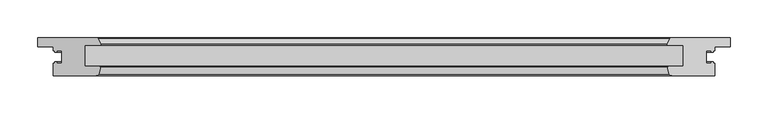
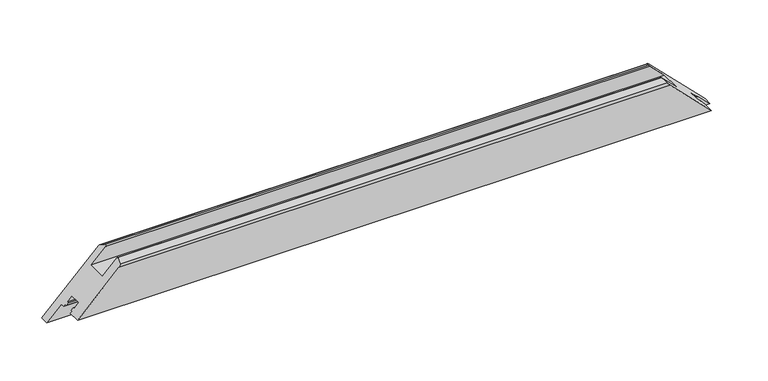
"""IFC4 building model written with IfcOpenShell, lengths in millimetres: proxy geometry, Weiku - Montante - Folha 02.2.01.017 : Weiku - Montante - Folha 02.2.01.017."""

import ifcopenshell
import ifcopenshell.guid

model = None  # the IFC model being written
_history = None  # IfcOwnerHistory: only IFC2X3 demands one
_inside = {}  # id of a spatial element -> (the spatial element, [elements in it])
_under = {}  # id of a project, library or spatial element -> (it, [spatial elements below it])
_declared = {}  # id of a project -> (the project, [libraries it declares])
_typed = {}  # id of a type object -> (the type object, [elements of that type])
_made_of = {}  # id of a material, layer set ... -> (it, [elements and type objects made of it])


def new_model(schema):
    """Start an empty IFC model of exactly this schema.

    Asked for "IFC4X3", IfcOpenShell would pick the latest addendum, in which some entities
    have other attributes; the version numbers below select the first issue.
    IFC2X3 requires an IfcOwnerHistory on every rooted entity: one is made here for all.
    """
    global model, _history
    if schema == "IFC4X3":
        model = ifcopenshell.file(schema_version=(4, 3, 0, 0))
    else:
        model = ifcopenshell.file(schema=schema)
    _inside.clear()
    _under.clear()
    _declared.clear()
    _typed.clear()
    _made_of.clear()
    _history = None
    if model.schema == "IFC2X3":
        org = make("IfcOrganization", Name="unknown")
        user = make(
            "IfcPersonAndOrganization",
            ThePerson=make("IfcPerson", FamilyName="unknown"),
            TheOrganization=org,
        )
        app = make(
            "IfcApplication",
            ApplicationDeveloper=org,
            Version="unknown",
            ApplicationFullName="unknown",
            ApplicationIdentifier="unknown",
        )
        _history = make(
            "IfcOwnerHistory",
            OwningUser=user,
            OwningApplication=app,
            ChangeAction="ADDED",
            CreationDate=0,
        )
    return model


def make(cls, **values):
    """One entity of the class cls with the attributes given. An attribute that is None is left unset."""
    return model.create_entity(
        cls, **{name: value for name, value in values.items() if value is not None}
    )


def rooted(cls, **values):
    """An entity with a GlobalId (a new one), such as an element, a storey or a relation."""
    return make(cls, GlobalId=ifcopenshell.guid.new(), OwnerHistory=_history, **values)


def si_unit(unit_type, name, prefix=None):
    """IfcSIUnit, for example si_unit("LENGTHUNIT", "METRE", prefix="MILLI")."""
    return make("IfcSIUnit", UnitType=unit_type, Prefix=prefix, Name=name)


def assignment(units):
    """IfcUnitAssignment: the units of a project."""
    return None if units is None else make("IfcUnitAssignment", Units=units)


def point(xyz):
    """IfcCartesianPoint."""
    return None if xyz is None else make("IfcCartesianPoint", Coordinates=xyz)


def direction(xyz):
    """IfcDirection."""
    return None if xyz is None else make("IfcDirection", DirectionRatios=xyz)


def frame(location, z_axis=None, x_axis=None):
    """IfcAxis2Placement3D, a coordinate frame: its origin and axes. An axis left out is left unset."""
    return make(
        "IfcAxis2Placement3D",
        Location=point(location),
        Axis=direction(z_axis),
        RefDirection=direction(x_axis),
    )


def origin():
    """The frame at (0, 0, 0) with its axes left unset."""
    return frame((0.0, 0.0, 0.0))


def place(relative_to, where):
    """IfcLocalPlacement: puts the frame where relative to a parent placement (None: the world)."""
    return make(
        "IfcLocalPlacement", PlacementRelTo=relative_to, RelativePlacement=where
    )


def context(
    kind, dimensions, precision=None, world=None, true_north=None, identifier=None
):
    """IfcGeometricRepresentationContext, for example the 3D "Model" context."""
    return make(
        "IfcGeometricRepresentationContext",
        ContextIdentifier=identifier,
        ContextType=kind,
        CoordinateSpaceDimension=dimensions,
        Precision=precision,
        WorldCoordinateSystem=world,
        TrueNorth=true_north,
    )


def project(units=None, contexts=None):
    """IfcProject with its units and contexts."""
    return rooted(
        "IfcProject",
        Name="project",
        RepresentationContexts=contexts,
        UnitsInContext=assignment(units),
    )


def spatial(cls, under=None, at=None, **own):
    """A site, building, storey or space (cls), placed at a placement, below another one or the project."""
    s = rooted(cls, ObjectPlacement=at, **own)
    if under is not None:
        _under.setdefault(under.id(), (under, []))[1].append(s)
    return s


def ellipse_curve(where, semi_axis1, semi_axis2):
    """IfcEllipse in the frame where."""
    return make(
        "IfcEllipse", Position=where, SemiAxis1=semi_axis1, SemiAxis2=semi_axis2
    )


def shape(context_of_items, identifier, shape_type, items):
    """IfcShapeRepresentation: the items that make up one representation, for example the "Body"."""
    return make(
        "IfcShapeRepresentation",
        ContextOfItems=context_of_items,
        RepresentationIdentifier=identifier,
        RepresentationType=shape_type,
        Items=items,
    )


def source(mapping_origin, context_of_items, identifier, shape_type, items):
    """IfcRepresentationMap: a shape defined once, which mapped items show again and again."""
    return make(
        "IfcRepresentationMap",
        MappingOrigin=mapping_origin,
        MappedRepresentation=shape(context_of_items, identifier, shape_type, items),
    )


def transform(
    local_origin,
    x_axis=None,
    y_axis=None,
    z_axis=None,
    scale=None,
    scale2=None,
    scale3=None,
    uniform=True,
):
    """IfcCartesianTransformationOperator3D, or its non-uniform kind. x_axis, y_axis, z_axis: its Axis1, 2, 3."""
    if uniform:
        return make(
            "IfcCartesianTransformationOperator3D",
            Axis1=direction(x_axis),
            Axis2=direction(y_axis),
            LocalOrigin=point(local_origin),
            Scale=scale,
            Axis3=direction(z_axis),
        )
    return make(
        "IfcCartesianTransformationOperator3DnonUniform",
        Axis1=direction(x_axis),
        Axis2=direction(y_axis),
        LocalOrigin=point(local_origin),
        Scale=scale,
        Axis3=direction(z_axis),
        Scale2=scale2,
        Scale3=scale3,
    )


def mapped(mapping_source, mapping_target):
    """IfcMappedItem: shows the shape of a source again, moved by a transform."""
    return make(
        "IfcMappedItem", MappingSource=mapping_source, MappingTarget=mapping_target
    )


def made_of(thing, what):
    """Note that an element or type object is made of a material, layer set ...; save() writes the relation."""
    if what is not None:
        _made_of.setdefault(what.id(), (what, []))[1].append(thing)
    return thing


def element(
    cls,
    number,
    at=None,
    inside=None,
    cuts=None,
    type_object=None,
    material=None,
    context=None,
    identifier="Body",
    shape_type=None,
    held_by="IfcProductDefinitionShape",
    body=None,
    shapes=None,
    **own,
):
    """One element of the class cls, such as IfcWall. Its Tag is "e" and its number.

    at: its placement. inside: the storey or other place that contains it. cuts: it is an
    opening in that element (IfcRelVoidsElement). A single representation is given by context,
    identifier, shape_type and body (its items); several are given by shapes. held_by: the class
    of the entity that holds the representations. save() writes the other relations.
    """
    e = rooted(cls, Tag="e%d" % number, ObjectPlacement=at, **own)
    if body is not None:
        shapes = [shape(context, identifier, shape_type, body)]
    if shapes is not None:
        e.Representation = make(held_by, Representations=shapes)
    if inside is not None:
        _inside.setdefault(inside.id(), (inside, []))[1].append(e)
    if cuts is not None:
        rooted(
            "IfcRelVoidsElement", RelatingBuildingElement=cuts, RelatedOpeningElement=e
        )
    if type_object is not None:
        _typed.setdefault(type_object.id(), (type_object, []))[1].append(e)
    return made_of(e, material)


def aggregate(whole, parts):
    """IfcRelAggregates: a whole, such as a stair, and the parts it consists of."""
    return rooted("IfcRelAggregates", RelatingObject=whole, RelatedObjects=parts)


def save(model, path):
    """Write the relations noted so far, then the file.

    IfcRelAggregates (storeys below a building ...), IfcRelContainedInSpatialStructure (elements
    in a storey), IfcRelDefinesByType, IfcRelAssociatesMaterial and IfcRelDeclares: one each for
    every whole, place, type object, material and project.
    """
    for whole, parts in _under.values():
        aggregate(whole, parts)
    for where, things in _inside.values():
        rooted(
            "IfcRelContainedInSpatialStructure",
            RelatedElements=things,
            RelatingStructure=where,
        )
    for kind, things in _typed.values():
        rooted("IfcRelDefinesByType", RelatedObjects=things, RelatingType=kind)
    for what, things in _made_of.values():
        rooted("IfcRelAssociatesMaterial", RelatedObjects=things, RelatingMaterial=what)
    for by, libraries in _declared.values():
        rooted("IfcRelDeclares", RelatingContext=by, RelatedDefinitions=libraries)
    model.write(path)


def plane_surface(at):
    """IfcPlane: the flat surface through the origin of the frame at, square to its z axis."""
    return make("IfcPlane", Position=at)


def cylinder_surface(at, radius):
    """IfcCylindricalSurface: all points at the distance radius from the z axis of the frame at."""
    return make("IfcCylindricalSurface", Position=at, Radius=radius)


def advanced_brep(points, edges, surfaces, faces):
    """IfcAdvancedBrep: a solid bounded by faces that lie on surfaces and meet in shared edges.

    An edge is (start, end): straight between two places in points (the first is 0);
    or (start, end, curve); or (start, end, curve, False) where it runs against its curve.
    A face is (place in surfaces, loops), or (place, loops, False) where it looks against
    its surface's normal. A loop lists edges by number (the first is 1), with a minus sign
    where the edge is run from its end to its start. The first loop is the outer one.
    """
    corners = [point(p) for p in points]
    vertices = [make("IfcVertexPoint", VertexGeometry=c) for c in corners]
    made = []
    for start, end, *more in edges:
        made.append(
            make(
                "IfcEdgeCurve",
                EdgeStart=vertices[start],
                EdgeEnd=vertices[end],
                EdgeGeometry=more[0] if more else make("IfcPolyline", Points=[corners[start], corners[end]]),
                SameSense=more[1] if len(more) > 1 else True,
            )
        )
    hull = []
    for where, loops, *sense in faces:
        bounds = []
        for j, loop in enumerate(loops):
            ring = [make("IfcOrientedEdge", EdgeElement=made[abs(k) - 1], Orientation=k > 0) for k in loop]
            bounds.append(
                make(
                    "IfcFaceOuterBound" if j == 0 else "IfcFaceBound",
                    Bound=make("IfcEdgeLoop", EdgeList=ring),
                    Orientation=True,
                )
            )
        hull.append(make("IfcAdvancedFace", Bounds=bounds, FaceSurface=surfaces[where], SameSense=sense[0] if sense else True))
    return make("IfcAdvancedBrep", Outer=make("IfcClosedShell", CfsFaces=hull))


def generic_models_682dcc86(model_context):
    return source(origin(), model_context, "Body", "AdvancedBrep", [
        advanced_brep(
        [(-436.0, -50.0, 20.0), (436.0, -50.0, 20.0), (378.9997332, -50.0, 77.0002668), (-378.9997332, -50.0, 77.0002668), (-456.0, 0.0, 0.0), (-377.9872264, 0.0, 78.0127736), (377.9872264, 0.0, 78.0127736), (456.0, 0.0, 0.0), (-376.1019557, -47.7764571, 79.8980443), (-373.5170371, -38.1294095, 82.4829629), (-374.0, -37.5, 82.0), (-394.5, -37.5, 61.5), (-394.5, -9.5, 61.5), (-374.7134285, -9.5, 81.2865715), (-373.5512796, -7.617411, 82.4487204), (-377.0932657, -0.5518546, 78.9067343), (-456.0, -11.5, 0.0), (-436.0, -11.5, 20.0), (-436.0, -16.9, 20.0), (-433.8, -16.9, 22.2), (-433.8, -18.9, 22.2), (-431.0, -18.9, 25.0), (-431.0, -16.9, 25.0), (-424.5, -16.9, 31.5), (-424.5, -33.1, 31.5), (-431.0, -33.1, 25.0), (-431.0, -31.1, 25.0), (-433.8, -31.1, 22.2), (-433.8, -33.1, 22.2), (-436.0, -33.1, 20.0), (436.0, -33.1, 20.0), (433.8, -33.1, 22.2), (433.8, -31.1, 22.2), (431.0, -31.1, 25.0), (431.0, -33.1, 25.0), (424.5, -33.1, 31.5), (424.5, -16.9, 31.5), (431.0, -16.9, 25.0), (431.0, -18.9, 25.0), (433.8, -18.9, 22.2), (433.8, -16.9, 22.2), (436.0, -16.9, 20.0), (436.0, -11.5, 20.0), (456.0, -11.5, 0.0), (377.0932657, -0.5518546, 78.9067343), (373.5512796, -7.617411, 82.4487204), (374.7134285, -9.5, 81.2865715), (394.5, -9.5, 61.5), (394.5, -37.5, 61.5), (374.0, -37.5, 82.0), (373.5170371, -38.1294095, 82.4829629), (376.1019557, -47.7764571, 79.8980443)],
        [
            (0, 1),
            (1, 2),
            (2, 3),
            (3, 0),
            (4, 5),
            (5, 6),
            (6, 7),
            (7, 4),
            (3, 8, ellipse_curve(frame((-378.9997332, -47.0, 77.0002668), z_axis=(-0.7071067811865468, 0.0, 0.7071067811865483), x_axis=(-0.7071067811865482, 0.0, -0.7071067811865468)), 4.2426407, 3.0)),
            (8, 9),
            (9, 10, ellipse_curve(frame((-374.0, -38.0, 82.0), z_axis=(-0.7071067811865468, 0.0, 0.7071067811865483), x_axis=(-0.7071067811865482, 0.0, -0.7071067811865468)), 0.7071068, 0.5)),
            (10, 11),
            (11, 12),
            (12, 13),
            (13, 14, ellipse_curve(frame((-374.7134285, -8.2, 81.2865715), z_axis=(-0.7071067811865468, 0.0, 0.7071067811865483), x_axis=(-0.7071067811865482, 0.0, -0.7071067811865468)), 1.8384776, 1.3)),
            (14, 15),
            (15, 5, ellipse_curve(frame((-377.9872264, -1.0, 78.0127736), z_axis=(-0.7071067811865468, 0.0, 0.7071067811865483), x_axis=(-0.7071067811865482, 0.0, -0.7071067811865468)), 1.4142136, 1.0)),
            (4, 16),
            (16, 17),
            (17, 18),
            (18, 19),
            (19, 20),
            (20, 21),
            (21, 22),
            (22, 23),
            (23, 24),
            (24, 25),
            (25, 26),
            (26, 27),
            (27, 28),
            (28, 29),
            (29, 0),
            (1, 30),
            (30, 31),
            (31, 32),
            (32, 33),
            (33, 34),
            (34, 35),
            (35, 36),
            (36, 37),
            (37, 38),
            (38, 39),
            (39, 40),
            (40, 41),
            (41, 42),
            (42, 43),
            (43, 7),
            (6, 44, ellipse_curve(frame((377.9872264, -1.0, 78.0127736), z_axis=(0.707106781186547, 0.0, 0.7071067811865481), x_axis=(-0.7071067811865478, 0.0, 0.707106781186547)), 1.4142136, 1.0)),
            (44, 45),
            (45, 46, ellipse_curve(frame((374.7134285, -8.2, 81.2865715), z_axis=(0.707106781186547, 0.0, 0.7071067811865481), x_axis=(-0.7071067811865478, 0.0, 0.707106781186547)), 1.8384776, 1.3)),
            (46, 47),
            (47, 48),
            (48, 49),
            (49, 50, ellipse_curve(frame((374.0, -38.0, 82.0), z_axis=(0.707106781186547, 0.0, 0.7071067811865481), x_axis=(-0.7071067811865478, 0.0, 0.707106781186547)), 0.7071068, 0.5)),
            (50, 51),
            (51, 2, ellipse_curve(frame((378.9997332, -47.0, 77.0002668), z_axis=(0.707106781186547, 0.0, 0.7071067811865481), x_axis=(-0.7071067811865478, 0.0, 0.707106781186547)), 4.2426407, 3.0)),
            (15, 44),
            (14, 45),
            (13, 46),
            (12, 47),
            (11, 48),
            (10, 49),
            (9, 50),
            (8, 51),
            (29, 30),
            (28, 31),
            (27, 32),
            (26, 33),
            (25, 34),
            (24, 35),
            (23, 36),
            (22, 37),
            (21, 38),
            (20, 39),
            (19, 40),
            (18, 41),
            (17, 42),
            (16, 43),
        ],
        [
            plane_surface(frame((-456.0, -50.0, 77.0002668), z_axis=(0.0, -1.0, 0.0), x_axis=(1.0, 0.0, 0.0))),
            plane_surface(frame((-456.0, 0.0, 0.0), z_axis=(0.0, 1.0, 0.0), x_axis=(1.0, 0.0, 0.0))),
            plane_surface(frame((-484.2842712, 0.0, -28.2842712), z_axis=(-0.7071067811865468, 0.0, 0.7071067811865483), x_axis=(0.0, -1.0, 0.0))),
            plane_surface(frame((366.0, 0.0, 90.0), z_axis=(0.707106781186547, 0.0, 0.7071067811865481), x_axis=(0.0, -1.0, 0.0))),
            cylinder_surface(frame((-456.0, -1.0, 78.0127736), z_axis=(-1.0, 0.0, 0.0), x_axis=(0.0, -1.0, 0.0)), 1.0),
            plane_surface(frame((-456.0, -0.5518546, 78.9067343), z_axis=(0.0, 0.4481453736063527, 0.8939606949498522), x_axis=(1.0, 0.0, 0.0))),
            cylinder_surface(frame((-456.0, -8.2, 81.2865715), z_axis=(-1.0, 0.0, 0.0), x_axis=(0.0, -1.0, 0.0)), 1.3),
            plane_surface(frame((-456.0, -9.5, 81.2865715), z_axis=(0.0, -1.0, 0.0), x_axis=(1.0, 0.0, 0.0))),
            plane_surface(frame((-456.0, -9.5, 61.5), z_axis=(0.0, 0.0, 1.0), x_axis=(1.0, 0.0, 0.0))),
            plane_surface(frame((-456.0, -37.5, 61.5), z_axis=(0.0, 1.0, 0.0), x_axis=(1.0, 0.0, 0.0))),
            cylinder_surface(frame((-456.0, -38.0, 82.0), z_axis=(-1.0, 0.0, 0.0), x_axis=(0.0, -1.0, 0.0)), 0.5),
            plane_surface(frame((-456.0, -38.1294095, 82.4829629), z_axis=(0.0, -0.2588190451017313, 0.9659258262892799), x_axis=(1.0, 0.0, 0.0))),
            cylinder_surface(frame((-456.0, -47.0, 77.0002668), z_axis=(-1.0, 0.0, 0.0), x_axis=(0.0, -1.0, 0.0)), 3.0),
            plane_surface(frame((-456.0, -50.0, 20.0), z_axis=(0.0, 0.0, -1.0), x_axis=(1.0, 0.0, 0.0))),
            plane_surface(frame((-456.0, -33.1, 20.0), z_axis=(0.0, 1.0, 0.0), x_axis=(1.0, 0.0, 0.0))),
            plane_surface(frame((-456.0, -33.1, 22.2), z_axis=(0.0, 0.0, -1.0), x_axis=(1.0, 0.0, 0.0))),
            plane_surface(frame((-456.0, -31.1, 22.2), z_axis=(0.0, 1.0, 0.0), x_axis=(1.0, 0.0, 0.0))),
            plane_surface(frame((-456.0, -31.1, 25.0), z_axis=(0.0, 0.0, 1.0), x_axis=(1.0, 0.0, 0.0))),
            plane_surface(frame((-456.0, -33.1, 25.0), z_axis=(0.0, 1.0, 0.0), x_axis=(1.0, 0.0, 0.0))),
            plane_surface(frame((-456.0, -33.1, 31.5), z_axis=(0.0, 0.0, -1.0), x_axis=(1.0, 0.0, 0.0))),
            plane_surface(frame((-456.0, -16.9, 31.5), z_axis=(0.0, -1.0, 0.0), x_axis=(1.0, 0.0, 0.0))),
            plane_surface(frame((-456.0, -16.9, 25.0), z_axis=(0.0, 0.0, 1.0), x_axis=(1.0, 0.0, 0.0))),
            plane_surface(frame((-456.0, -18.9, 25.0), z_axis=(0.0, -1.0, 0.0), x_axis=(1.0, 0.0, 0.0))),
            plane_surface(frame((-456.0, -18.9, 22.2), z_axis=(0.0, 0.0, -1.0), x_axis=(1.0, 0.0, 0.0))),
            plane_surface(frame((-456.0, -16.9, 22.2), z_axis=(0.0, -1.0, 0.0), x_axis=(1.0, 0.0, 0.0))),
            plane_surface(frame((-456.0, -16.9, 20.0), z_axis=(0.0, 0.0, -1.0), x_axis=(1.0, 0.0, 0.0))),
            plane_surface(frame((-456.0, -11.5, 20.0), z_axis=(0.0, -1.0, 0.0), x_axis=(1.0, 0.0, 0.0))),
            plane_surface(frame((-456.0, -11.5, 0.0), z_axis=(0.0, 0.0, -1.0), x_axis=(1.0, 0.0, 0.0))),
        ],
        [
            (0, [[1, 2, 3, 4]]),
            (1, [[5, 6, 7, 8]]),
            (2, [[9, 10, 11, 12, 13, 14, 15, 16, 17, -5, 18, 19, 20, 21, 22, 23, 24, 25, 26, 27, 28, 29, 30, 31, 32, -4]]),
            (3, [[33, 34, 35, 36, 37, 38, 39, 40, 41, 42, 43, 44, 45, 46, 47, -7, 48, 49, 50, 51, 52, 53, 54, 55, 56, -2]]),
            (4, [[57, -48, -6, -17]]),
            (5, [[58, -49, -57, -16]]),
            (6, [[59, -50, -58, -15]]),
            (7, [[60, -51, -59, -14]]),
            (8, [[61, -52, -60, -13]]),
            (9, [[62, -53, -61, -12]]),
            (10, [[63, -54, -62, -11]]),
            (11, [[64, -55, -63, -10]]),
            (12, [[-3, -56, -64, -9]]),
            (13, [[65, -33, -1, -32]]),
            (14, [[66, -34, -65, -31]]),
            (15, [[67, -35, -66, -30]]),
            (16, [[68, -36, -67, -29]]),
            (17, [[69, -37, -68, -28]]),
            (18, [[70, -38, -69, -27]]),
            (19, [[71, -39, -70, -26]]),
            (20, [[72, -40, -71, -25]]),
            (21, [[73, -41, -72, -24]]),
            (22, [[74, -42, -73, -23]]),
            (23, [[75, -43, -74, -22]]),
            (24, [[76, -44, -75, -21]]),
            (25, [[77, -45, -76, -20]]),
            (26, [[-46, -77, -19, 78]]),
            (27, [[-47, -78, -18, -8]]),
        ],
    ),
    ])


if __name__ == "__main__":
    model = new_model("IFC4")
    model_context = context("Model", 3, world=origin())
    ifc_project = project(units=[si_unit("LENGTHUNIT", "METRE", prefix="MILLI")], contexts=[model_context])
    site = spatial("IfcSite", under=ifc_project)
    building = spatial("IfcBuilding", under=site)
    placement = place(None, origin())
    generic_models_shape = generic_models_682dcc86(model_context)
    element("IfcBuildingElementProxy", 1, Name="Weiku - Montante - Folha 02.2.01.017 : Weiku - Montante - Folha 02.2.01.017", ObjectType="Weiku - Montante - Folha 02.2.01.017 : Weiku - Montante - Folha 02.2.01.017", at=placement, inside=building, context=model_context, shape_type="MappedRepresentation", body=[
        mapped(generic_models_shape, transform((0.0, 0.0, 0.0), x_axis=(1.0, 0.0, 0.0), y_axis=(0.0, 1.0, 0.0), z_axis=(0.0, 0.0, 1.0))),
    ])
    save(model, "model.ifc")
